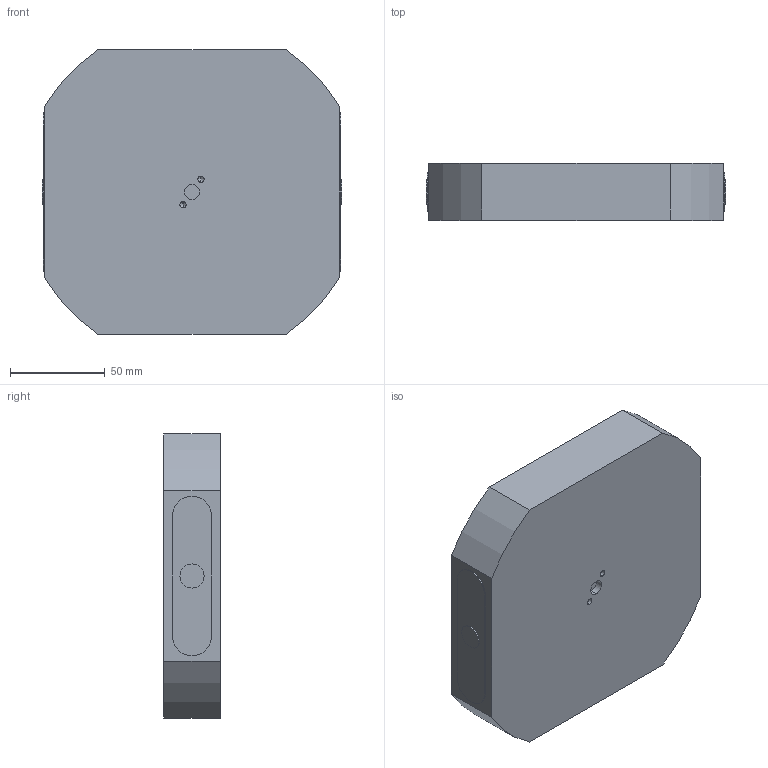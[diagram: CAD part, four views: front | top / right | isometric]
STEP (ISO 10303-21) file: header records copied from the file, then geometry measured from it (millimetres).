
FILE_DESCRIPTION (( 'STEP AP214' ), '1' );
FILE_NAME ('D_RL96A-66.STEP', '2020-03-11T16:13:33', ( '' ), ( '' ), 'SwSTEP 2.0', 'SolidWorks 2018', '' );
FILE_SCHEMA (( 'AUTOMOTIVE_DESIGN' ));
Length unit declared in the file: millimetre
Products named in the file (1): D_RL96A-66
Bounding box: 158 x 30 x 150 mm (x, y, z)
Volume: 520375.7 mm3; surface area: 95699.1 mm2
Topology: 1 solids, 1 shells, 163 faces, 396 edges, 258 vertices
Faces by surface type: cylinder 98, plane 57, cone 8
Entity records: 5908 total; most frequent: CARTESIAN_POINT 1330, DIRECTION 884, ORIENTED_EDGE 776, EDGE_CURVE 388, AXIS2_PLACEMENT_3D 362, VERTEX_POINT 258, EDGE_LOOP 202, CIRCLE 198
